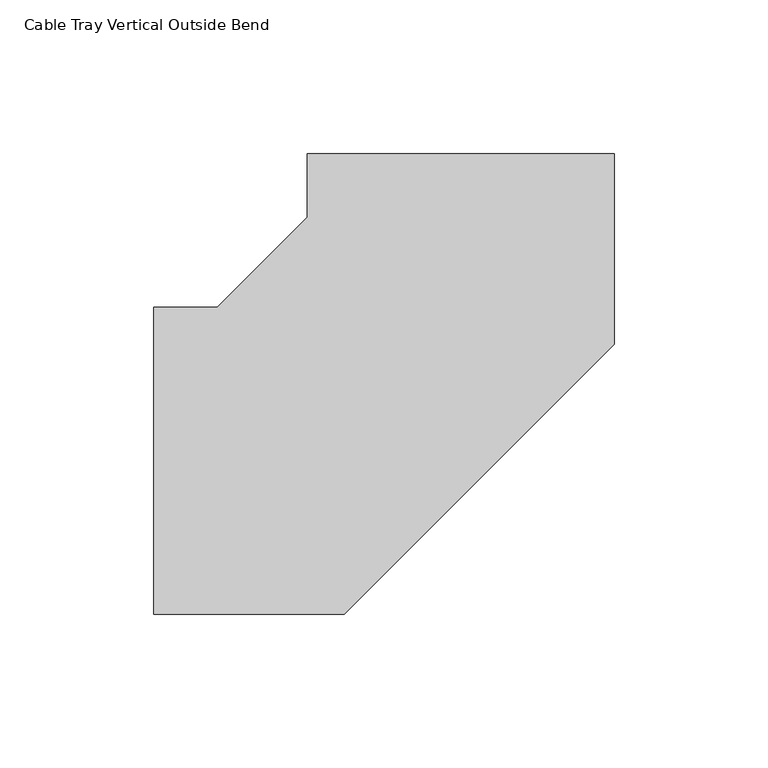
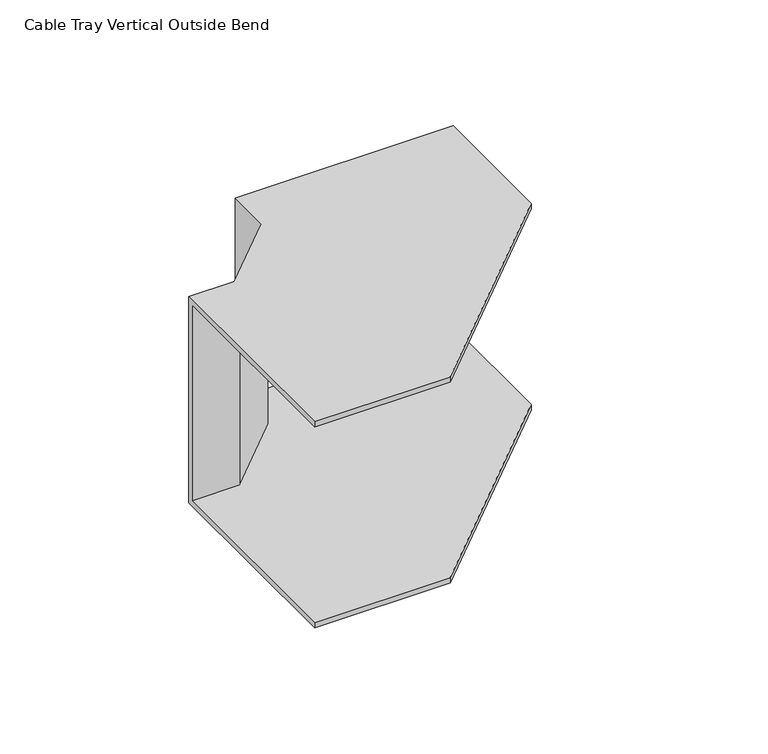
"""IFC4 building model written with IfcOpenShell, lengths in millimetres: cable carrier fitting geometry, Cable Tray Vertical Outside Bend : ELEC_ELV_TKG_N2402."""

from ifc_helpers import new_model, si_unit, origin, place, context, project, spatial, faceted_brep, source, transform, mapped, element, save


def cable_tray_vertical_outside_bend_b24c8fc5(model_context):
    return source(origin(), model_context, "Body", "Brep", [
        faceted_brep([(-100.0015092, -50.0, 50.0), (-100.0015092, 50.0, 50.0), (-100.0015092, 50.0, -50.0), (-100.0015092, -50.0, -50.0), (-100.0015092, -50.0, -47.46), (-100.0015092, 47.46, -47.46), (-100.0015092, 47.46, 47.46), (-100.0015092, -50.0, 47.46), (49.9984908, 100.0022638, 50.0), (49.9984908, 100.0022638, 47.46), (-47.4615092, 100.0007929, 47.46), (-47.4615092, 100.0007929, -47.46), (49.9984908, 100.0022638, -47.46), (49.9984908, 100.0022638, -50.0), (-50.0015092, 100.0007546, -50.0), (-50.0015092, 100.0007546, 50.0), (-37.8688118, -50.0, 50.0), (49.9994285, 37.8695664, 50.0), (-50.0011966, 79.2898555, 50.0), (-79.2906101, 50.0, 50.0), (-79.2906101, 50.0, -50.0), (-50.0011966, 79.2898555, -50.0), (49.9994285, 37.8695664, -50.0), (-37.8688118, -50.0, -50.0), (-37.8688118, -50.0, -47.46), (49.9994285, 37.8695664, -47.46), (-47.4611808, 78.2377801, -47.46), (-78.2384964, 47.46, -47.46), (-78.2384964, 47.46, 47.46), (-47.4611808, 78.2377801, 47.46), (49.9994285, 37.8695664, 47.46), (-37.8688118, -50.0, 47.46)], [[[0, 1, 2, 3, 4, 5, 6, 7]], [[8, 9, 10, 11, 12, 13, 14, 15]], [[1, 0, 16, 17, 8, 15, 18, 19]], [[2, 1, 19, 20]], [[3, 2, 20, 21, 14, 13, 22, 23]], [[4, 3, 23, 24]], [[5, 4, 24, 25, 12, 11, 26, 27]], [[6, 5, 27, 28]], [[7, 6, 28, 29, 10, 9, 30, 31]], [[0, 7, 31, 16]], [[20, 19, 18, 21]], [[24, 23, 22, 25]], [[28, 27, 26, 29]], [[16, 31, 30, 17]], [[21, 18, 15, 14]], [[25, 22, 13, 12]], [[29, 26, 11, 10]], [[17, 30, 9, 8]]]),
    ])


if __name__ == "__main__":
    model = new_model("IFC4")
    model_context = context("Model", 3, world=origin())
    ifc_project = project(units=[si_unit("LENGTHUNIT", "METRE", prefix="MILLI")], contexts=[model_context])
    site = spatial("IfcSite", under=ifc_project)
    building = spatial("IfcBuilding", under=site)
    placement = place(None, origin())
    cable_tray_vertical_outside_bend_shape = cable_tray_vertical_outside_bend_b24c8fc5(model_context)
    element("IfcCableCarrierFitting", 1, ObjectType="Cable Tray Vertical Outside Bend : ELEC_ELV_TKG_N2402", at=placement, inside=building, context=model_context, shape_type="MappedRepresentation", body=[
        mapped(cable_tray_vertical_outside_bend_shape, transform((0.0, 0.0, 0.0), x_axis=(1.0, 0.0, 0.0), y_axis=(0.0, 1.0, 0.0), z_axis=(0.0, 0.0, 1.0))),
    ])
    save(model, "model.ifc")
